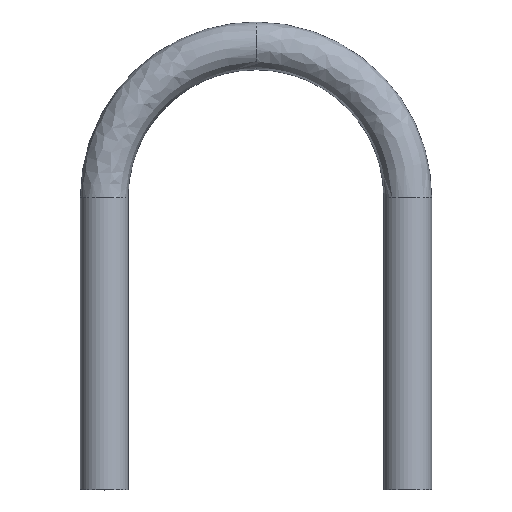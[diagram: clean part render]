
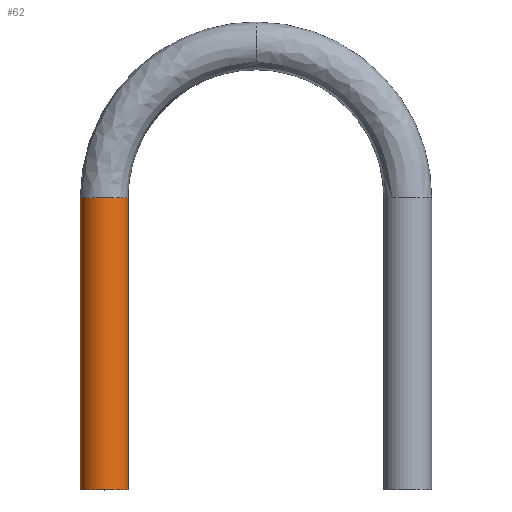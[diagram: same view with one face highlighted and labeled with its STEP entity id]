
A CAD part, top view. The second image highlights one B-rep face of the part: STEP entity #62.
In plain terms, the highlighted cylindrical face has radius 4.763 mm (diameter 9.525 mm), a partial arc.
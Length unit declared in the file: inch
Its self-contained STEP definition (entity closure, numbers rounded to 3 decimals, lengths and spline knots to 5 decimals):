
#62=ADVANCED_FACE('',(#116),#117,.T.);
#116=FACE_OUTER_BOUND('',#371,.T.);
#117=CYLINDRICAL_SURFACE('',#372,0.1875);
#371=EDGE_LOOP('',(#492,#493,#494,#495));
#372=AXIS2_PLACEMENT_3D('',#496,#497,#498);
#492=ORIENTED_EDGE('',*,*,#552,.F.);
#493=ORIENTED_EDGE('',*,*,#536,.T.);
#494=ORIENTED_EDGE('',*,*,#553,.F.);
#495=ORIENTED_EDGE('',*,*,#554,.T.);
#496=CARTESIAN_POINT('',(0.0,0.,0.0));
#497=DIRECTION('',(-0.0,-1.0,-0.0));
#498=DIRECTION('',(-1.0,0.0,0.0));
#536=EDGE_CURVE('',#565,#566,#567,.T.);
#552=EDGE_CURVE('',#565,#585,#589,.T.);
#553=EDGE_CURVE('',#583,#566,#590,.T.);
#554=EDGE_CURVE('',#583,#585,#591,.T.);
#565=VERTEX_POINT('',#604);
#566=VERTEX_POINT('',#605);
#567=CIRCLE('',#606,0.1875);
#583=VERTEX_POINT('',#632);
#585=VERTEX_POINT('',#639);
#589=LINE('',#648,#649);
#590=LINE('',#650,#651);
#591=CIRCLE('',#652,0.1875);
#604=CARTESIAN_POINT('',(-0.1875,0.,0.0));
#605=CARTESIAN_POINT('',(0.1875,0.,0.));
#606=AXIS2_PLACEMENT_3D('',#666,#667,#668);
#632=CARTESIAN_POINT('',(0.1875,2.2875,0.));
#639=CARTESIAN_POINT('',(-0.1875,2.2875,0.0));
#648=CARTESIAN_POINT('',(-0.1875,0.,0.));
#649=VECTOR('',#687,1.0);
#650=CARTESIAN_POINT('',(0.1875,0.,0.));
#651=VECTOR('',#688,1.0);
#652=AXIS2_PLACEMENT_3D('',#689,#690,#691);
#666=CARTESIAN_POINT('',(0.0,0.,0.0));
#667=DIRECTION('',(0.0,1.0,0.0));
#668=DIRECTION('',(-1.0,0.0,0.0));
#687=DIRECTION('',(0.0,1.0,0.0));
#688=DIRECTION('',(-0.0,-1.0,-0.0));
#689=CARTESIAN_POINT('',(0.0,2.2875,0.0));
#690=DIRECTION('',(-0.0,-1.0,-0.0));
#691=DIRECTION('',(-1.0,0.0,0.0));
